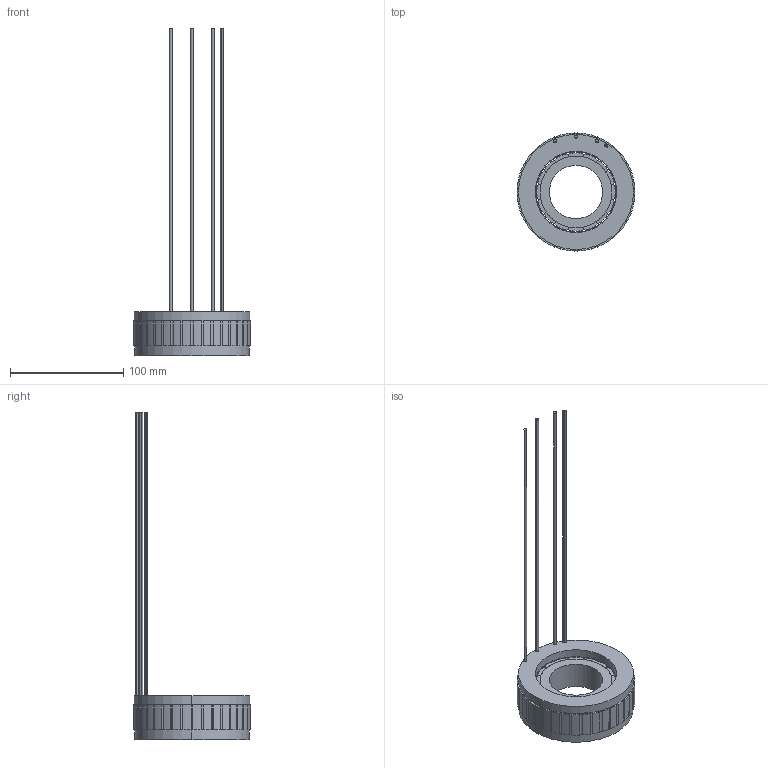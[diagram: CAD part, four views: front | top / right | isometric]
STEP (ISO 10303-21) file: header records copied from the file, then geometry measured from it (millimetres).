
FILE_DESCRIPTION (( 'STEP AP203' ), '1' );
FILE_NAME ('307080224SS FMC10429-0100-2543N-8DS00)-V1.STEP', '2022-12-05T10:08:49', ( 'muse' ), ( 'muse' ), 'SwSTEP 2.0', 'SolidWorks 2022', '' );
FILE_SCHEMA (( 'CONFIG_CONTROL_DESIGN' ));
Length unit declared in the file: millimetre
Products named in the file (1): 307080224SS FMC10429-0100-2543N-8DS00)-V1
Bounding box: 103.99 x 103.98 x 288.8 mm (x, y, z)
Volume: 187831.2 mm3; surface area: 95228 mm2
Topology: 19 solids, 19 shells, 1026 faces, 2838 edges, 1856 vertices
Faces by surface type: plane 598, cylinder 428
Entity records: 32931 total; most frequent: DIRECTION 5892, CARTESIAN_POINT 5721, ORIENTED_EDGE 5676, EDGE_CURVE 2838, AXIS2_PLACEMENT_3D 2027, VERTEX_POINT 1856, LINE 1838, VECTOR 1838
